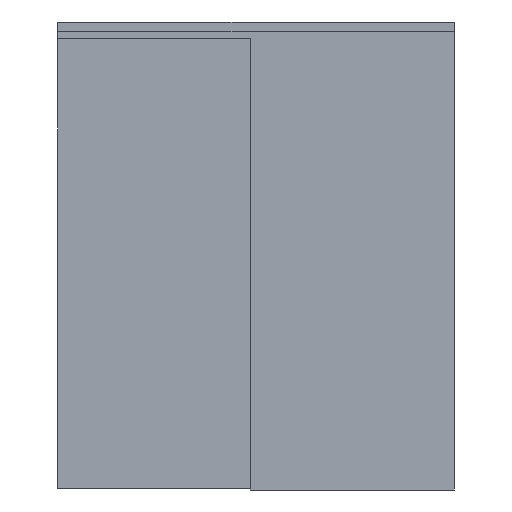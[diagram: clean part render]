
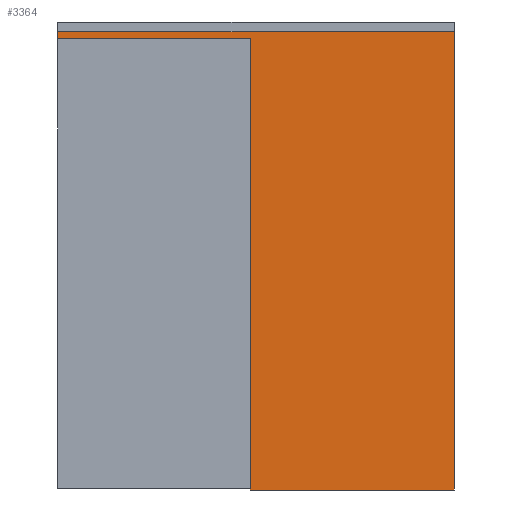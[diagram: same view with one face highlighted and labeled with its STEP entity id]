
A CAD part, front view. The second image highlights one B-rep face of the part: STEP entity #3364.
In plain terms, the highlighted planar face has unit normal (0, -1, 0).
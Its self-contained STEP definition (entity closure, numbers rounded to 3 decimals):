
#3364=ADVANCED_FACE('',(#6841),#6842,.F.);
#6841=FACE_OUTER_BOUND('',#10340,.T.);
#6842=PLANE('',#10341);
#10340=EDGE_LOOP('',(#19509,#19510,#19511,#19512,#19513,#19514));
#10341=AXIS2_PLACEMENT_3D('',#19515,#19516,#19517);
#19509=ORIENTED_EDGE('',*,*,#24237,.T.);
#19510=ORIENTED_EDGE('',*,*,#24227,.F.);
#19511=ORIENTED_EDGE('',*,*,#24231,.F.);
#19512=ORIENTED_EDGE('',*,*,#24235,.T.);
#19513=ORIENTED_EDGE('',*,*,#24238,.F.);
#19514=ORIENTED_EDGE('',*,*,#24239,.F.);
#19515=CARTESIAN_POINT('',(0.0,-44.,2333.0));
#19516=DIRECTION('',(0.0,1.0,-0.0));
#19517=DIRECTION('',(0.0,0.0,1.0));
#24227=EDGE_CURVE('',#29739,#29734,#29741,.T.);
#24231=EDGE_CURVE('',#29745,#29739,#29747,.T.);
#24235=EDGE_CURVE('',#29745,#29751,#29753,.T.);
#24237=EDGE_CURVE('',#29755,#29734,#29756,.T.);
#24238=EDGE_CURVE('',#29757,#29751,#29758,.T.);
#24239=EDGE_CURVE('',#29755,#29757,#29759,.T.);
#29734=VERTEX_POINT('',#37229);
#29739=VERTEX_POINT('',#37236);
#29741=LINE('',#37239,#37240);
#29745=VERTEX_POINT('',#37245);
#29747=LINE('',#37248,#37249);
#29751=VERTEX_POINT('',#37254);
#29753=LINE('',#37257,#37258);
#29755=VERTEX_POINT('',#37260);
#29756=LINE('',#37261,#37262);
#29757=VERTEX_POINT('',#37263);
#29758=LINE('',#37264,#37265);
#29759=LINE('',#37266,#37267);
#37229=CARTESIAN_POINT('',(995.0,-44.,2335.0));
#37236=CARTESIAN_POINT('',(995.0,-44.,0.0));
#37239=CARTESIAN_POINT('',(995.0,-44.,7.0));
#37240=VECTOR('',#42526,1.0);
#37245=CARTESIAN_POINT('',(2050.0,-44.,0.0));
#37248=CARTESIAN_POINT('',(1327.5,-44.,0.0));
#37249=VECTOR('',#42529,1.0);
#37254=CARTESIAN_POINT('',(2050.0,-44.,2368.0));
#37257=CARTESIAN_POINT('',(2050.0,-44.,7.0));
#37258=VECTOR('',#42532,1.0);
#37260=CARTESIAN_POINT('',(0.0,-44.,2335.0));
#37261=CARTESIAN_POINT('',(0.0,-44.,2335.0));
#37262=VECTOR('',#42533,1.0);
#37263=CARTESIAN_POINT('',(0.0,-44.,2368.0));
#37264=CARTESIAN_POINT('',(1270.0,-44.,2368.0));
#37265=VECTOR('',#42534,1.0);
#37266=CARTESIAN_POINT('',(0.0,-44.,2301.0));
#37267=VECTOR('',#42535,1.0);
#42526=DIRECTION('',(0.0,0.0,1.0));
#42529=DIRECTION('',(-1.0,0.0,0.0));
#42532=DIRECTION('',(0.0,0.0,1.0));
#42533=DIRECTION('',(1.0,0.0,0.0));
#42534=DIRECTION('',(1.0,0.0,0.0));
#42535=DIRECTION('',(0.0,0.0,1.0));
